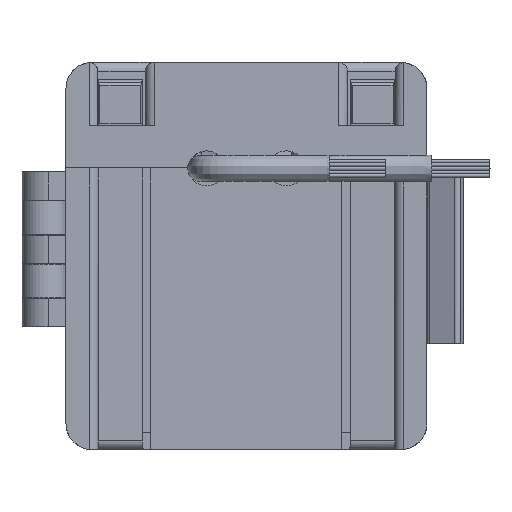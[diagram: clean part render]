
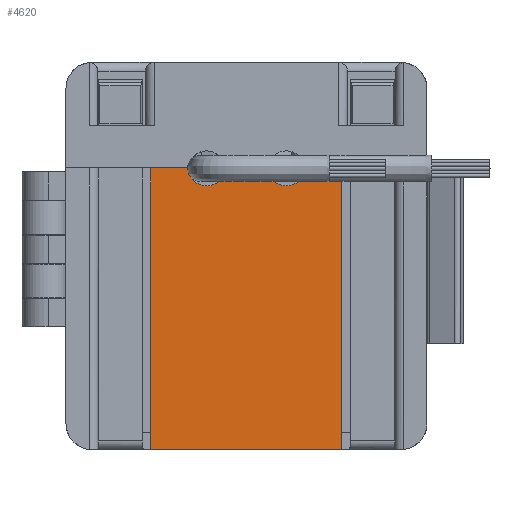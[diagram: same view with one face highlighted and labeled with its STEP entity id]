
A CAD part, front view. The second image highlights one B-rep face of the part: STEP entity #4620.
In plain terms, the highlighted planar face has unit normal (0, -1, 0).
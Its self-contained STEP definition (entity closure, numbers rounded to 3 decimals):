
#1497=LINE('',#25311,#2916);
#1498=LINE('',#25314,#2917);
#1499=LINE('',#25316,#2918);
#1500=LINE('',#25318,#2919);
#1501=LINE('',#25322,#2920);
#1502=LINE('',#25326,#2921);
#2916=VECTOR('',#19131,1.);
#2917=VECTOR('',#19132,1.);
#2918=VECTOR('',#19133,1.);
#2919=VECTOR('',#19134,1.);
#2920=VECTOR('',#19137,1.);
#2921=VECTOR('',#19140,1.);
#3611=CIRCLE('',#15774,2.);
#3612=CIRCLE('',#15775,2.);
#4620=ADVANCED_FACE('',(#5920),#5200,.T.);
#5200=PLANE('',#15776);
#5920=FACE_OUTER_BOUND('',#6721,.T.);
#6721=EDGE_LOOP('',(#10152,#10153,#10154,#10155,#10156,#10157,#10158,#10159));
#10152=ORIENTED_EDGE('',*,*,#14131,.T.);
#10153=ORIENTED_EDGE('',*,*,#14132,.F.);
#10154=ORIENTED_EDGE('',*,*,#14133,.T.);
#10155=ORIENTED_EDGE('',*,*,#14134,.F.);
#10156=ORIENTED_EDGE('',*,*,#14135,.T.);
#10157=ORIENTED_EDGE('',*,*,#14136,.T.);
#10158=ORIENTED_EDGE('',*,*,#14137,.F.);
#10159=ORIENTED_EDGE('',*,*,#14138,.T.);
#12192=VERTEX_POINT('',#25312);
#12193=VERTEX_POINT('',#25313);
#12194=VERTEX_POINT('',#25315);
#12195=VERTEX_POINT('',#25317);
#12196=VERTEX_POINT('',#25319);
#12197=VERTEX_POINT('',#25321);
#12198=VERTEX_POINT('',#25323);
#12199=VERTEX_POINT('',#25325);
#14131=EDGE_CURVE('',#12192,#12193,#1497,.T.);
#14132=EDGE_CURVE('',#12194,#12193,#1498,.T.);
#14133=EDGE_CURVE('',#12194,#12195,#1499,.T.);
#14134=EDGE_CURVE('',#12196,#12195,#1500,.T.);
#14135=EDGE_CURVE('',#12196,#12197,#3611,.T.);
#14136=EDGE_CURVE('',#12197,#12198,#1501,.T.);
#14137=EDGE_CURVE('',#12199,#12198,#3612,.T.);
#14138=EDGE_CURVE('',#12199,#12192,#1502,.T.);
#15774=AXIS2_PLACEMENT_3D('',#25320,#19135,#19136);
#15775=AXIS2_PLACEMENT_3D('',#25324,#19138,#19139);
#15776=AXIS2_PLACEMENT_3D('',#25327,#19141,#19142);
#19131=DIRECTION('',(0.,0.,-1.));
#19132=DIRECTION('',(-1.,0.,0.));
#19133=DIRECTION('',(0.,0.,1.));
#19134=DIRECTION('',(1.,0.,0.));
#19135=DIRECTION('',(0.,1.,0.));
#19136=DIRECTION('',(1.,0.,0.027));
#19137=DIRECTION('',(-1.,0.,0.));
#19138=DIRECTION('',(0.,-1.,0.));
#19139=DIRECTION('',(-1.,0.,0.027));
#19140=DIRECTION('',(-1.,0.,0.));
#19141=DIRECTION('',(0.,-1.,0.));
#19142=DIRECTION('',(1.,0.,0.));
#25311=CARTESIAN_POINT('',(2.517,31.289,16.));
#25312=CARTESIAN_POINT('',(2.517,31.289,32.));
#25313=CARTESIAN_POINT('',(2.517,31.289,0.));
#25314=CARTESIAN_POINT('',(13.366,31.289,0.));
#25315=CARTESIAN_POINT('',(24.216,31.289,0.));
#25316=CARTESIAN_POINT('',(24.216,31.289,16.));
#25317=CARTESIAN_POINT('',(24.216,31.289,32.));
#25318=CARTESIAN_POINT('',(22.052,31.289,32.));
#25319=CARTESIAN_POINT('',(19.889,31.289,32.));
#25320=CARTESIAN_POINT('',(17.89,31.289,31.947));
#25321=CARTESIAN_POINT('',(15.891,31.289,32.));
#25322=CARTESIAN_POINT('',(13.366,31.289,32.));
#25323=CARTESIAN_POINT('',(10.842,31.289,32.));
#25324=CARTESIAN_POINT('',(8.843,31.289,31.947));
#25325=CARTESIAN_POINT('',(6.844,31.289,32.));
#25326=CARTESIAN_POINT('',(4.681,31.289,32.));
#25327=CARTESIAN_POINT('',(2.517,31.289,0.));
